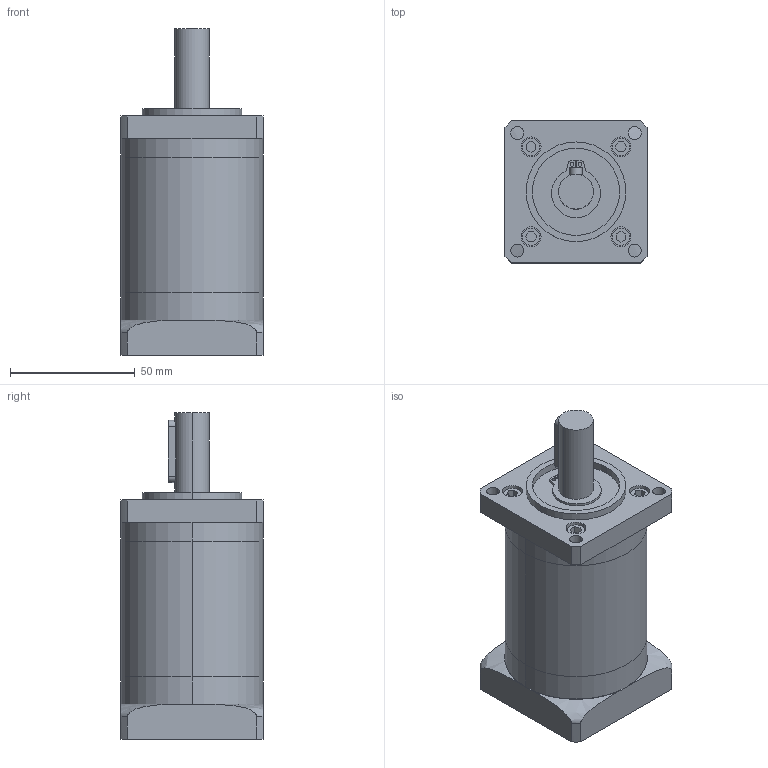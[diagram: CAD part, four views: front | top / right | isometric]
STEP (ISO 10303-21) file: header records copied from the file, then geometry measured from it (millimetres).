
FILE_DESCRIPTION (( 'STEP AP214' ), '1' );
FILE_NAME ('DLF57-L3-( )-J14-B.step', '2020-11-17T06:01:24', ( 'Moofasta' ), ( '' ), 'SwSTEP 2.0', 'SolidWorks 2020', '' );
FILE_SCHEMA (( 'AUTOMOTIVE_DESIGN' ));
Length unit declared in the file: millimetre
Products named in the file (1): DLF57-L3-(    )-J14-B
Bounding box: 57 x 57 x 131 mm (x, y, z)
Volume: 257682.5 mm3; surface area: 49221.1 mm2
Topology: 5 solids, 5 shells, 232 faces, 541 edges, 352 vertices
Faces by surface type: plane 119, cylinder 101, cone 8, bspline 4
Entity records: 7864 total; most frequent: CARTESIAN_POINT 1921, DIRECTION 1165, ORIENTED_EDGE 1066, EDGE_CURVE 533, AXIS2_PLACEMENT_3D 424, VERTEX_POINT 352, VECTOR 317, LINE 317
